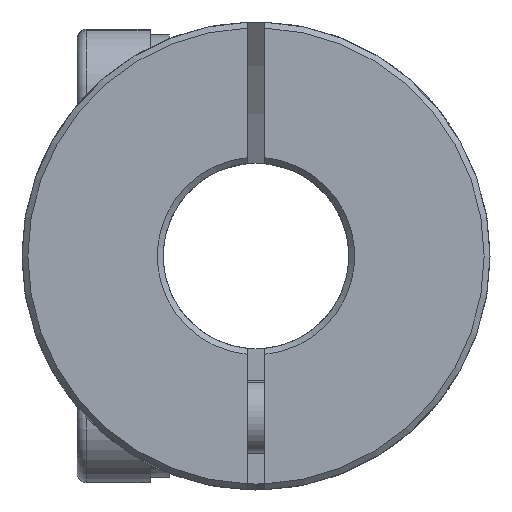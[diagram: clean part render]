
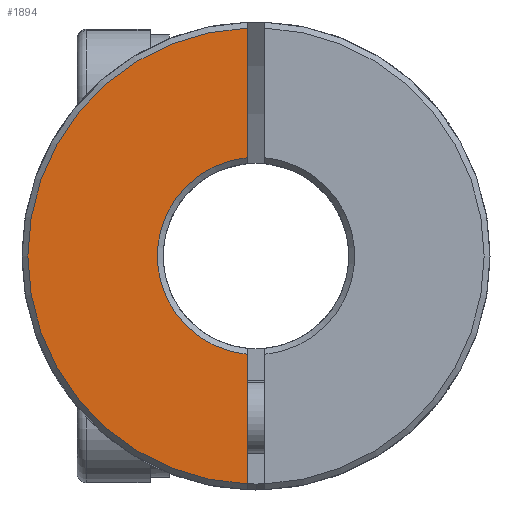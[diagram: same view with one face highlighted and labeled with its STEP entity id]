
A CAD part, front view. The second image highlights one B-rep face of the part: STEP entity #1894.
In plain terms, the highlighted planar face has unit normal (0, -1, 0).
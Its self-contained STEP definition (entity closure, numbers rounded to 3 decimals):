
#132 = EDGE_CURVE ( 'NONE', #3440, #4021, #317, .T. ) ;
#308 = CARTESIAN_POINT ( 'NONE',  ( -0.3, -15.02, -7.794 ) ) ;
#317 = LINE ( 'NONE', #6857, #5572 ) ;
#1082 = PLANE ( 'NONE',  #5176 ) ;
#1094 = CARTESIAN_POINT ( 'NONE',  ( -0.3, -15.02, 3.362 ) ) ;
#1423 = EDGE_CURVE ( 'NONE', #3440, #2928, #1892, .T. ) ;
#1470 = EDGE_LOOP ( 'NONE', ( #2258, #6205, #2749, #5867 ) ) ;
#1572 = DIRECTION ( 'NONE',  ( 0., 0., -1. ) ) ;
#1655 = CARTESIAN_POINT ( 'NONE',  ( 0., -15.02, 0. ) ) ;
#1720 = CARTESIAN_POINT ( 'NONE',  ( -0.3, -15.02, 7.794 ) ) ;
#1892 = CIRCLE ( 'NONE', #5382, 3.375 ) ;
#1894 = ADVANCED_FACE ( 'NONE', ( #6668 ), #1082, .F. ) ;
#1897 = CARTESIAN_POINT ( 'NONE',  ( 0., -15.02, 0. ) ) ;
#1901 = DIRECTION ( 'NONE',  ( 0., 0., 1. ) ) ;
#1975 = DIRECTION ( 'NONE',  ( 0., 1., 0. ) ) ;
#2258 = ORIENTED_EDGE ( 'NONE', *, *, #4611, .F. ) ;
#2749 = ORIENTED_EDGE ( 'NONE', *, *, #132, .F. ) ;
#2842 = CARTESIAN_POINT ( 'NONE',  ( -0.3, -15.02, 0. ) ) ;
#2866 = VERTEX_POINT ( 'NONE', #1720 ) ;
#2928 = VERTEX_POINT ( 'NONE', #1094 ) ;
#3381 = DIRECTION ( 'NONE',  ( 0., 0., -1. ) ) ;
#3440 = VERTEX_POINT ( 'NONE', #3724 ) ;
#3601 = VECTOR ( 'NONE', #3381, 1000. ) ;
#3724 = CARTESIAN_POINT ( 'NONE',  ( -0.3, -15.02, -3.362 ) ) ;
#4019 = DIRECTION ( 'NONE',  ( 0., 0., 1. ) ) ;
#4021 = VERTEX_POINT ( 'NONE', #308 ) ;
#4611 = EDGE_CURVE ( 'NONE', #2866, #2928, #4872, .T. ) ;
#4872 = LINE ( 'NONE', #2842, #3601 ) ;
#5009 = CARTESIAN_POINT ( 'NONE',  ( 0., -15.02, 0. ) ) ;
#5176 = AXIS2_PLACEMENT_3D ( 'NONE', #1655, #6356, #4019 ) ;
#5382 = AXIS2_PLACEMENT_3D ( 'NONE', #1897, #1975, #6013 ) ;
#5572 = VECTOR ( 'NONE', #1572, 1000. ) ;
#5867 = ORIENTED_EDGE ( 'NONE', *, *, #1423, .T. ) ;
#6013 = DIRECTION ( 'NONE',  ( 0., 0., 1. ) ) ;
#6110 = EDGE_CURVE ( 'NONE', #2866, #4021, #6908, .T. ) ;
#6186 = AXIS2_PLACEMENT_3D ( 'NONE', #5009, #7219, #1901 ) ;
#6205 = ORIENTED_EDGE ( 'NONE', *, *, #6110, .T. ) ;
#6356 = DIRECTION ( 'NONE',  ( 0., 1., 0. ) ) ;
#6668 = FACE_OUTER_BOUND ( 'NONE', #1470, .T. ) ;
#6857 = CARTESIAN_POINT ( 'NONE',  ( -0.3, -15.02, 0. ) ) ;
#6908 = CIRCLE ( 'NONE', #6186, 7.8 ) ;
#7219 = DIRECTION ( 'NONE',  ( 0., -1., 0. ) ) ;
